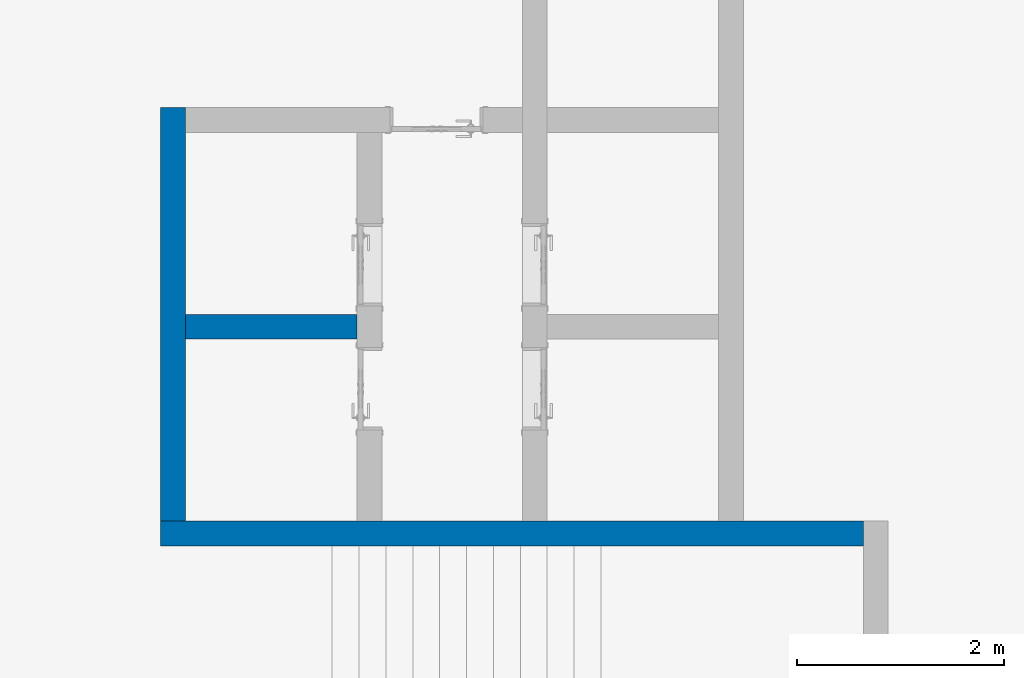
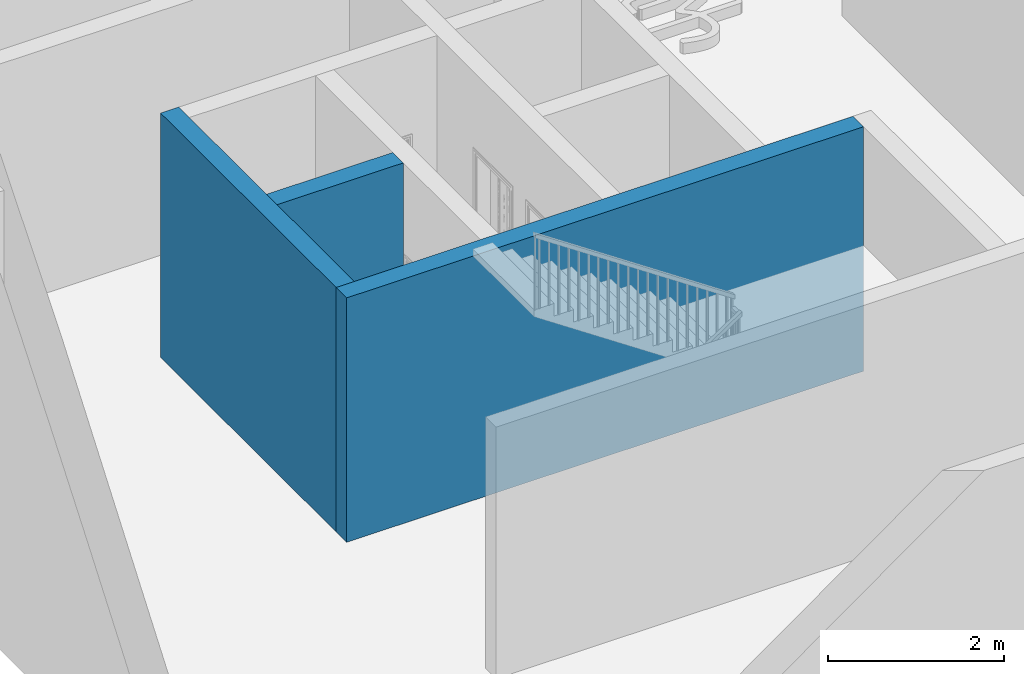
# One storey, part 5 of 24: 3 walls.
"""IFC2X3 building model written with IfcOpenShell, lengths in millimetres."""

from ifc_helpers import new_model, entity, si_unit, converted_unit, derived_unit, direction, frame, frame_2d, origin, place, context, subcontext, project, spatial, polyline, rectangle, extrude, clip, bounded_halfspace, material, layer, layer_set, layer_usage, type_object, element, save


model = new_model("IFC2X3")

# Units and contexts
model_context = context("Model", 3, precision=0.01, world=origin(), true_north=direction((6.12303176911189e-17, 1.0)))
body_context = subcontext(model_context, "Body", "Model", "MODEL_VIEW")
ifc_project = project(units=[si_unit("LENGTHUNIT", "METRE", prefix="MILLI"), si_unit("AREAUNIT", "SQUARE_METRE"), si_unit("VOLUMEUNIT", "CUBIC_METRE"), converted_unit("PLANEANGLEUNIT", "DEGREE", entity("IfcRatioMeasure", 0.0174532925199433), si_unit("PLANEANGLEUNIT", "RADIAN"), dimensions=[0, 0, 0, 0, 0, 0, 0]), si_unit("MASSUNIT", "GRAM", prefix="KILO"), derived_unit("MASSDENSITYUNIT", [(si_unit("MASSUNIT", "GRAM", prefix="KILO"), 1), (si_unit("LENGTHUNIT", "METRE"), -3)]), si_unit("TIMEUNIT", "SECOND"), si_unit("FREQUENCYUNIT", "HERTZ"), si_unit("THERMODYNAMICTEMPERATUREUNIT", "DEGREE_CELSIUS"), derived_unit("THERMALTRANSMITTANCEUNIT", [(si_unit("MASSUNIT", "GRAM", prefix="KILO"), 1), (si_unit("THERMODYNAMICTEMPERATUREUNIT", "KELVIN"), -1), (si_unit("TIMEUNIT", "SECOND"), -3)]), derived_unit("VOLUMETRICFLOWRATEUNIT", [(si_unit("LENGTHUNIT", "METRE"), 3), (si_unit("TIMEUNIT", "SECOND"), -1)]), si_unit("ELECTRICCURRENTUNIT", "AMPERE"), si_unit("ELECTRICVOLTAGEUNIT", "VOLT"), si_unit("POWERUNIT", "WATT"), si_unit("FORCEUNIT", "NEWTON", prefix="KILO"), si_unit("ILLUMINANCEUNIT", "LUX"), si_unit("LUMINOUSFLUXUNIT", "LUMEN"), si_unit("LUMINOUSINTENSITYUNIT", "CANDELA"), derived_unit("USERDEFINED", [(si_unit("MASSUNIT", "GRAM", prefix="KILO"), -1), (si_unit("LENGTHUNIT", "METRE"), -2), (si_unit("TIMEUNIT", "SECOND"), 3), (si_unit("LUMINOUSFLUXUNIT", "LUMEN"), 1)]), derived_unit("LINEARVELOCITYUNIT", [(si_unit("LENGTHUNIT", "METRE"), 1), (si_unit("TIMEUNIT", "SECOND"), -1)]), si_unit("PRESSUREUNIT", "PASCAL"), derived_unit("USERDEFINED", [(si_unit("LENGTHUNIT", "METRE"), -2), (si_unit("MASSUNIT", "GRAM", prefix="KILO"), 1), (si_unit("TIMEUNIT", "SECOND"), -2)])], contexts=[model_context])

# Site, building, storey
site_placement = place(None, origin())
site = spatial("IfcSite", under=ifc_project, at=site_placement, Name="表面", CompositionType="ELEMENT")
building_placement = place(site_placement, origin())
building = spatial("IfcBuilding", under=site, at=building_placement, CompositionType="ELEMENT")
storey_placement = place(building_placement, frame((0.0, 0.0, -3500.0)))
storey = spatial("IfcBuildingStorey", under=building, at=storey_placement, Name="-1F", CompositionType="ELEMENT", Elevation=-3500.0)

# Walls
ifc_material_1 = material(Name="白色涂料")
ifc_layer_1 = layer(ifc_material_1, 10.0)
ifc_material_2 = material(Name="默认墙")
ifc_layer_2 = layer(ifc_material_2, 220.0)
ifc_layer_3 = layer(ifc_material_1, 10.0)
ifc_layer_set = layer_set([ifc_layer_1, ifc_layer_2, ifc_layer_3], Name="基本墙:粉刷墙240")
ifc_layer_usage_1 = layer_usage(ifc_layer_set, "AXIS2", "NEGATIVE", 120.0)
wall_type = type_object("IfcWallType", Name="基本墙:粉刷墙240", PredefinedType="STANDARD", material=ifc_layer_set)
wall_1_placement = place(storey_placement, frame((-5350.24991264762, -5507.84591297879, 0.0), z_axis=(0.0, 0.0, 1.0), x_axis=(-1.0, 0.0, 0.0)))
element("IfcWallStandardCase", 1, at=wall_1_placement, inside=storey, type_object=wall_type, material=ifc_layer_usage_1, Name="基本墙:粉刷墙240", ObjectType="基本墙:粉刷墙240", context=body_context, shape_type="Clipping", body=[
    clip(extrude(rectangle(XDim=6800.00000000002, YDim=240.0, at=frame_2d((3400.00000000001, 0.0), x_axis=(-1.0, 0.0))), origin(), (0.0, 0.0, 1.0), 3399.99999999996), bounded_halfspace(frame((0.0, -120.0, 3400.0), z_axis=(0.0, 0.0, -1.0), x_axis=(0.0, 1.0, 0.0)), True, frame((0.0, -120.0, 3400.0)), polyline([(0.0, 0.0), (1160.0, 0.0), (1400.0, 0.0), (3060.0, 0.0), (3300.0, 0.0), (4660.0, 0.0), (4900.0, 0.0), (6560.0, 0.0), (6800.0, 0.0), (6800.0, 240.0), (0.0, 240.0), (0.0, 0.0)]))),
])
ifc_layer_usage_2 = layer_usage(ifc_layer_set, "AXIS2", "NEGATIVE", 120.0)
wall_2_placement = place(storey_placement, frame((-12030.2499126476, -5387.84591297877, 0.0), z_axis=(0.0, 0.0, 1.0), x_axis=(0.0, 1.0, 0.0)))
element("IfcWallStandardCase", 2, at=wall_2_placement, inside=storey, type_object=wall_type, material=ifc_layer_usage_2, Name="基本墙:粉刷墙240", ObjectType="基本墙:粉刷墙240", context=body_context, shape_type="Clipping", body=[
    clip(extrude(rectangle(XDim=4000.0, YDim=240.000000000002, at=frame_2d((2000.0, 0.0), x_axis=(-1.0, 0.0))), origin(), (0.0, 0.0, 1.0), 3399.99999999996), bounded_halfspace(frame((0.0, -120.0, 3400.0), z_axis=(0.0, 0.0, -1.0), x_axis=(-1.0, 0.0, 0.0)), True, frame((0.0, -120.0, 3400.0)), polyline([(0.0, 0.0), (1760.0, 0.0), (2000.0, 0.0), (3760.0, 0.0), (4000.0, 0.0), (4000.0, 240.0), (0.0, 240.0), (0.0, 0.0)]))),
])
ifc_layer_usage_3 = layer_usage(ifc_layer_set, "AXIS2", "NEGATIVE", 120.0)
wall_3_placement = place(storey_placement, frame((-11910.2499126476, -3507.84591297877, 0.0)))
element("IfcWallStandardCase", 3, at=wall_3_placement, inside=storey, type_object=wall_type, material=ifc_layer_usage_3, Name="基本墙:粉刷墙240", ObjectType="基本墙:粉刷墙240", context=body_context, shape_type="Clipping", body=[
    clip(extrude(rectangle(XDim=1660.0, YDim=240.0, at=frame_2d((830.000000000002, 1.70530256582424e-13), x_axis=(-1.0, 0.0))), origin(), (0.0, 0.0, 1.0), 3399.99999999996), bounded_halfspace(frame((0.0, -120.0, 3400.0), z_axis=(0.0, 0.0, -1.0), x_axis=(0.0, -1.0, 0.0)), True, frame((0.0, -120.0, 3400.0)), polyline([(0.0, 0.0), (1660.0, 0.0), (1660.0, 240.0), (0.0, 240.0), (0.0, 0.0)]))),
])

save(model, "model.ifc")
